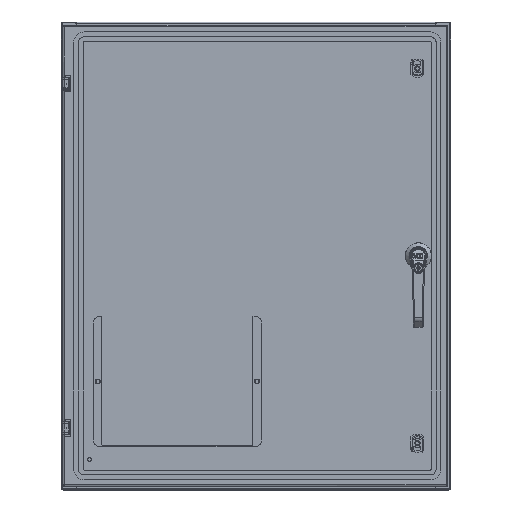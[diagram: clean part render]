
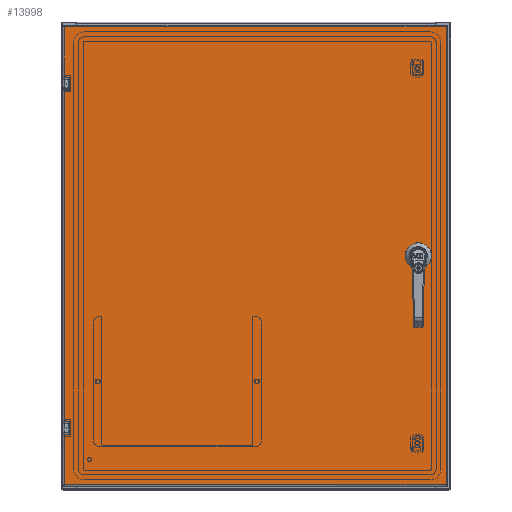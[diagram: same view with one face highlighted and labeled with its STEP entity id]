
A CAD part, top view. The second image highlights one B-rep face of the part: STEP entity #13998.
In plain terms, the highlighted planar face has unit normal (0, 0, 1).
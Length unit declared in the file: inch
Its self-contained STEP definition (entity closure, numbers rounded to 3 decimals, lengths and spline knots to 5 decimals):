
#10619=CARTESIAN_POINT('',(12.5625,-1.09,0.));
#10620=DIRECTION('',(0.,0.,1.));
#10621=DIRECTION('',(-1.,0.,0.));
#10622=AXIS2_PLACEMENT_3D('',#10619,#10620,#10621);
#10627=CARTESIAN_POINT('',(12.5625,-1.09,0.));
#10628=DIRECTION('',(0.,0.,1.));
#10629=DIRECTION('',(1.,0.,0.));
#10630=AXIS2_PLACEMENT_3D('',#10627,#10628,#10629);
#10635=DIRECTION('',(1.,0.,0.));
#10636=VECTOR('',#10635,0.39715);
#10637=CARTESIAN_POINT('',(12.36392,0.396,0.));
#10638=LINE('',#10637,#10636);
#10642=CARTESIAN_POINT('',(12.5625,0.,0.));
#10643=DIRECTION('',(0.,0.,1.));
#10644=DIRECTION('',(-0.448,0.894,0.));
#10645=AXIS2_PLACEMENT_3D('',#10642,#10643,#10644);
#10650=DIRECTION('',(0.,1.,0.));
#10651=VECTOR('',#10650,0.39715);
#10652=CARTESIAN_POINT('',(12.1665,-0.19858,0.));
#10653=LINE('',#10652,#10651);
#10657=CARTESIAN_POINT('',(12.5625,0.,0.));
#10658=DIRECTION('',(0.,0.,1.));
#10659=DIRECTION('',(-0.894,-0.448,0.));
#10660=AXIS2_PLACEMENT_3D('',#10657,#10658,#10659);
#10665=DIRECTION('',(-1.,0.,0.));
#10666=VECTOR('',#10665,0.39715);
#10667=CARTESIAN_POINT('',(12.76108,-0.396,0.));
#10668=LINE('',#10667,#10666);
#10672=CARTESIAN_POINT('',(12.5625,0.,0.));
#10673=DIRECTION('',(0.,0.,1.));
#10674=DIRECTION('',(0.448,-0.894,0.));
#10675=AXIS2_PLACEMENT_3D('',#10672,#10673,#10674);
#10680=DIRECTION('',(0.,-1.,0.));
#10681=VECTOR('',#10680,0.39715);
#10682=CARTESIAN_POINT('',(12.9585,0.19858,0.));
#10683=LINE('',#10682,#10681);
#10687=CARTESIAN_POINT('',(12.5625,0.,0.));
#10688=DIRECTION('',(0.,0.,1.));
#10689=DIRECTION('',(0.894,0.448,0.));
#10690=AXIS2_PLACEMENT_3D('',#10687,#10688,#10689);
#10695=DIRECTION('',(1.,0.,0.));
#10696=VECTOR('',#10695,0.363);
#10697=CARTESIAN_POINT('',(-14.6955,-13.595,0.));
#10698=LINE('',#10697,#10696);
#10702=DIRECTION('',(0.,-1.,0.));
#10703=VECTOR('',#10702,0.63);
#10704=CARTESIAN_POINT('',(-14.3025,-12.935,0.));
#10705=LINE('',#10704,#10703);
#10709=DIRECTION('',(1.,0.,0.));
#10710=VECTOR('',#10709,0.363);
#10711=CARTESIAN_POINT('',(-14.6955,-12.905,0.));
#10712=LINE('',#10711,#10710);
#10716=DIRECTION('',(1.,0.,0.));
#10717=VECTOR('',#10716,0.363);
#10718=CARTESIAN_POINT('',(-14.6955,12.905,0.));
#10719=LINE('',#10718,#10717);
#10723=DIRECTION('',(0.,-1.,0.));
#10724=VECTOR('',#10723,0.63);
#10725=CARTESIAN_POINT('',(-14.3025,13.565,0.));
#10726=LINE('',#10725,#10724);
#10730=DIRECTION('',(1.,0.,0.));
#10731=VECTOR('',#10730,0.363);
#10732=CARTESIAN_POINT('',(-14.6955,13.595,0.));
#10733=LINE('',#10732,#10731);
#11270=DIRECTION('',(0.,-1.,0.));
#11271=VECTOR('',#11270,35.266);
#11272=CARTESIAN_POINT('',(14.6955,17.633,0.));
#11273=LINE('',#11272,#11271);
#11342=DIRECTION('',(1.,0.,0.));
#11343=VECTOR('',#11342,29.391);
#11344=CARTESIAN_POINT('',(-14.6955,17.633,0.));
#11345=LINE('',#11344,#11343);
#11454=DIRECTION('',(0.,1.,0.));
#11455=VECTOR('',#11454,25.81);
#11456=CARTESIAN_POINT('',(-14.6955,-12.905,0.));
#11457=LINE('',#11456,#11455);
#11461=CARTESIAN_POINT('',(-14.6955,17.633,0.));
#11498=DIRECTION('',(0.,1.,0.));
#11499=VECTOR('',#11498,4.038);
#11500=CARTESIAN_POINT('',(-14.6955,13.595,0.));
#11501=LINE('',#11500,#11499);
#11556=DIRECTION('',(0.,1.,0.));
#11557=VECTOR('',#11556,4.038);
#11558=CARTESIAN_POINT('',(-14.6955,-17.633,0.));
#11559=LINE('',#11558,#11557);
#11593=CARTESIAN_POINT('',(-14.3325,-12.935,0.));
#11594=DIRECTION('',(0.,0.,-1.));
#11595=DIRECTION('',(0.,1.,0.));
#11596=AXIS2_PLACEMENT_3D('',#11593,#11594,#11595);
#11623=CARTESIAN_POINT('',(-14.3325,-13.565,0.));
#11624=DIRECTION('',(0.,0.,-1.));
#11625=DIRECTION('',(1.,0.,0.));
#11626=AXIS2_PLACEMENT_3D('',#11623,#11624,#11625);
#12025=DIRECTION('',(-1.,0.,0.));
#12026=VECTOR('',#12025,29.391);
#12027=CARTESIAN_POINT('',(14.6955,-17.633,0.));
#12028=LINE('',#12027,#12026);
#12380=CARTESIAN_POINT('',(-14.3325,13.565,0.));
#12381=DIRECTION('',(0.,0.,-1.));
#12382=DIRECTION('',(0.,1.,0.));
#12383=AXIS2_PLACEMENT_3D('',#12380,#12381,#12382);
#12410=CARTESIAN_POINT('',(-14.3325,12.935,0.));
#12411=DIRECTION('',(0.,0.,-1.));
#12412=DIRECTION('',(1.,0.,0.));
#12413=AXIS2_PLACEMENT_3D('',#12410,#12411,#12412);
#13521=CARTESIAN_POINT('',(14.6955,17.633,0.));
#13522=CARTESIAN_POINT('',(14.6955,-17.633,0.));
#13523=VERTEX_POINT('',#13521);
#13524=VERTEX_POINT('',#13522);
#13703=VERTEX_POINT('',#11461);
#13708=CARTESIAN_POINT('',(-14.6955,-17.633,0.));
#13710=VERTEX_POINT('',#13708);
#13783=CARTESIAN_POINT('',(12.4375,-1.09,0.));
#13784=CARTESIAN_POINT('',(12.6875,-1.09,0.));
#13785=VERTEX_POINT('',#13783);
#13786=VERTEX_POINT('',#13784);
#13787=CARTESIAN_POINT('',(12.36392,0.396,0.));
#13788=CARTESIAN_POINT('',(12.76108,0.396,0.));
#13789=VERTEX_POINT('',#13787);
#13790=VERTEX_POINT('',#13788);
#13791=CARTESIAN_POINT('',(12.9585,0.19858,0.));
#13792=VERTEX_POINT('',#13791);
#13793=CARTESIAN_POINT('',(12.9585,-0.19858,0.));
#13794=VERTEX_POINT('',#13793);
#13795=CARTESIAN_POINT('',(12.76108,-0.396,0.));
#13796=VERTEX_POINT('',#13795);
#13797=CARTESIAN_POINT('',(12.36392,-0.396,0.));
#13798=VERTEX_POINT('',#13797);
#13799=CARTESIAN_POINT('',(12.1665,-0.19858,0.));
#13800=VERTEX_POINT('',#13799);
#13801=CARTESIAN_POINT('',(12.1665,0.19858,0.));
#13802=VERTEX_POINT('',#13801);
#13839=CARTESIAN_POINT('',(-14.6955,12.905,0.));
#13841=VERTEX_POINT('',#13839);
#13843=CARTESIAN_POINT('',(-14.6955,13.595,0.));
#13845=VERTEX_POINT('',#13843);
#13855=CARTESIAN_POINT('',(-14.6955,-13.595,0.));
#13857=VERTEX_POINT('',#13855);
#13859=CARTESIAN_POINT('',(-14.6955,-12.905,0.));
#13861=VERTEX_POINT('',#13859);
#13871=CARTESIAN_POINT('',(-14.3325,13.595,0.));
#13873=VERTEX_POINT('',#13871);
#13875=CARTESIAN_POINT('',(-14.3025,13.565,0.));
#13877=VERTEX_POINT('',#13875);
#13879=CARTESIAN_POINT('',(-14.3025,12.935,0.));
#13881=VERTEX_POINT('',#13879);
#13883=CARTESIAN_POINT('',(-14.3325,12.905,0.));
#13885=VERTEX_POINT('',#13883);
#13911=CARTESIAN_POINT('',(-14.3025,-13.565,0.));
#13913=VERTEX_POINT('',#13911);
#13915=CARTESIAN_POINT('',(-14.3325,-13.595,0.));
#13917=VERTEX_POINT('',#13915);
#13919=CARTESIAN_POINT('',(-14.3325,-12.905,0.));
#13921=VERTEX_POINT('',#13919);
#13923=CARTESIAN_POINT('',(-14.3025,-12.935,0.));
#13925=VERTEX_POINT('',#13923);
#13935=CARTESIAN_POINT('',(0.,0.,0.));
#13936=DIRECTION('',(0.,0.,-1.));
#13937=DIRECTION('',(1.,0.,0.));
#13938=AXIS2_PLACEMENT_3D('',#13935,#13936,#13937);
#13939=PLANE('',#13938);
#13941=ORIENTED_EDGE('',*,*,#13940,.T.);
#13943=ORIENTED_EDGE('',*,*,#13942,.T.);
#13945=ORIENTED_EDGE('',*,*,#13944,.T.);
#13947=ORIENTED_EDGE('',*,*,#13946,.F.);
#13949=ORIENTED_EDGE('',*,*,#13948,.F.);
#13951=ORIENTED_EDGE('',*,*,#13950,.F.);
#13953=ORIENTED_EDGE('',*,*,#13952,.F.);
#13955=ORIENTED_EDGE('',*,*,#13954,.T.);
#13957=ORIENTED_EDGE('',*,*,#13956,.T.);
#13959=ORIENTED_EDGE('',*,*,#13958,.F.);
#13961=ORIENTED_EDGE('',*,*,#13960,.F.);
#13963=ORIENTED_EDGE('',*,*,#13962,.F.);
#13965=ORIENTED_EDGE('',*,*,#13964,.F.);
#13967=ORIENTED_EDGE('',*,*,#13966,.T.);
#13969=ORIENTED_EDGE('',*,*,#13968,.T.);
#13971=ORIENTED_EDGE('',*,*,#13970,.T.);
#13972=EDGE_LOOP('',(#13941,#13943,#13945,#13947,#13949,#13951,#13953,#13955,
#13957,#13959,#13961,#13963,#13965,#13967,#13969,#13971));
#13973=FACE_OUTER_BOUND('',#13972,.F.);
#13975=ORIENTED_EDGE('',*,*,#13974,.F.);
#13977=ORIENTED_EDGE('',*,*,#13976,.T.);
#13979=ORIENTED_EDGE('',*,*,#13978,.F.);
#13981=ORIENTED_EDGE('',*,*,#13980,.T.);
#13983=ORIENTED_EDGE('',*,*,#13982,.F.);
#13985=ORIENTED_EDGE('',*,*,#13984,.T.);
#13987=ORIENTED_EDGE('',*,*,#13986,.F.);
#13989=ORIENTED_EDGE('',*,*,#13988,.T.);
#13990=EDGE_LOOP('',(#13975,#13977,#13979,#13981,#13983,#13985,#13987,#13989));
#13991=FACE_BOUND('',#13990,.F.);
#13993=ORIENTED_EDGE('',*,*,#13992,.T.);
#13995=ORIENTED_EDGE('',*,*,#13994,.T.);
#13996=EDGE_LOOP('',(#13993,#13995));
#13997=FACE_BOUND('',#13996,.F.);
#10623=CIRCLE('',#10622,0.125);
#10631=CIRCLE('',#10630,0.125);
#10646=CIRCLE('',#10645,0.443);
#10661=CIRCLE('',#10660,0.443);
#10676=CIRCLE('',#10675,0.443);
#10691=CIRCLE('',#10690,0.443);
#11597=CIRCLE('',#11596,0.03);
#11627=CIRCLE('',#11626,0.03);
#12384=CIRCLE('',#12383,0.03);
#12414=CIRCLE('',#12413,0.03);
#13940=EDGE_CURVE('',#13524,#13710,#12028,.T.);
#13942=EDGE_CURVE('',#13710,#13857,#11559,.T.);
#13944=EDGE_CURVE('',#13857,#13917,#10698,.T.);
#13946=EDGE_CURVE('',#13913,#13917,#11627,.T.);
#13948=EDGE_CURVE('',#13925,#13913,#10705,.T.);
#13950=EDGE_CURVE('',#13921,#13925,#11597,.T.);
#13952=EDGE_CURVE('',#13861,#13921,#10712,.T.);
#13954=EDGE_CURVE('',#13861,#13841,#11457,.T.);
#13956=EDGE_CURVE('',#13841,#13885,#10719,.T.);
#13958=EDGE_CURVE('',#13881,#13885,#12414,.T.);
#13960=EDGE_CURVE('',#13877,#13881,#10726,.T.);
#13962=EDGE_CURVE('',#13873,#13877,#12384,.T.);
#13964=EDGE_CURVE('',#13845,#13873,#10733,.T.);
#13966=EDGE_CURVE('',#13845,#13703,#11501,.T.);
#13968=EDGE_CURVE('',#13703,#13523,#11345,.T.);
#13970=EDGE_CURVE('',#13523,#13524,#11273,.T.);
#13974=EDGE_CURVE('',#13789,#13790,#10638,.T.);
#13976=EDGE_CURVE('',#13789,#13802,#10646,.T.);
#13978=EDGE_CURVE('',#13800,#13802,#10653,.T.);
#13980=EDGE_CURVE('',#13800,#13798,#10661,.T.);
#13982=EDGE_CURVE('',#13796,#13798,#10668,.T.);
#13984=EDGE_CURVE('',#13796,#13794,#10676,.T.);
#13986=EDGE_CURVE('',#13792,#13794,#10683,.T.);
#13988=EDGE_CURVE('',#13792,#13790,#10691,.T.);
#13992=EDGE_CURVE('',#13785,#13786,#10623,.T.);
#13994=EDGE_CURVE('',#13786,#13785,#10631,.T.);
#13998=ADVANCED_FACE('',(#13973,#13991,#13997),#13939,.F.);
